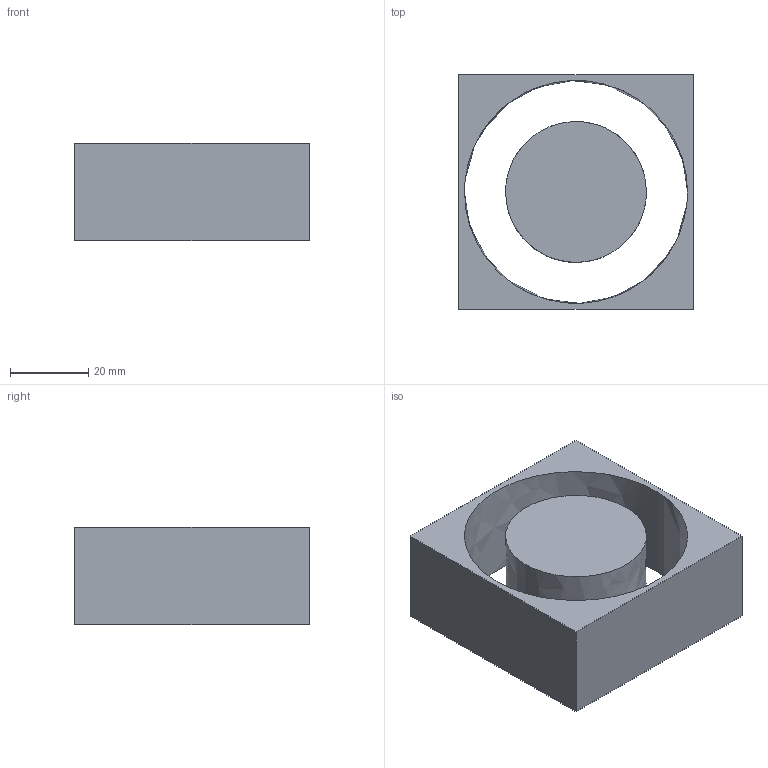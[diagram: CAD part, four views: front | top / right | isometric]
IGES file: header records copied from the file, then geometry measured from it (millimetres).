
Start section:  PTC IGES file: fan60.igs
Global section: file name: fan60.igs; native system: Pro/ENGINEER by Parametric Technology Corporation; preprocessor: 2010160; author: CV86875; organization: Unknown; date: 20121031.194046; units: millimetre
Bounding box: 60 x 60 x 25 mm (x, y, z)
Volume: 51653 mm3; surface area: 17436.4 mm2
Topology: 2 solids, 2 shells, 12 faces, 24 edges, 16 vertices
Faces by surface type: bspline 12
